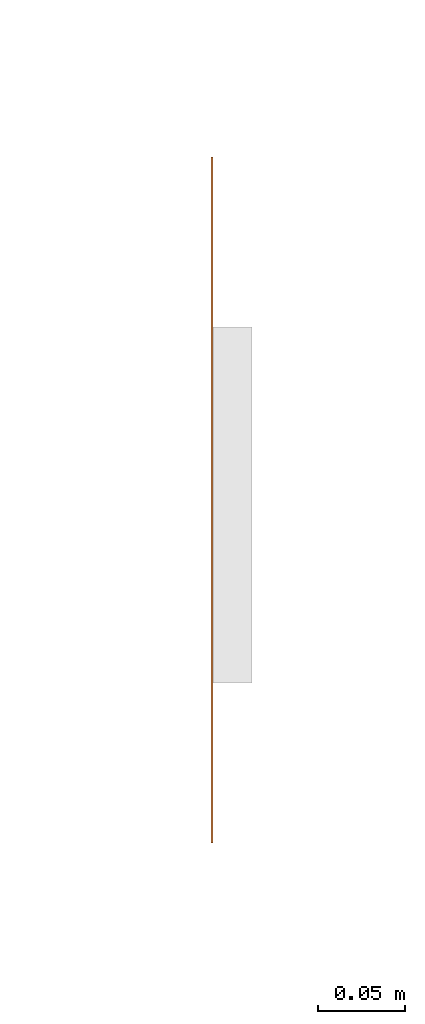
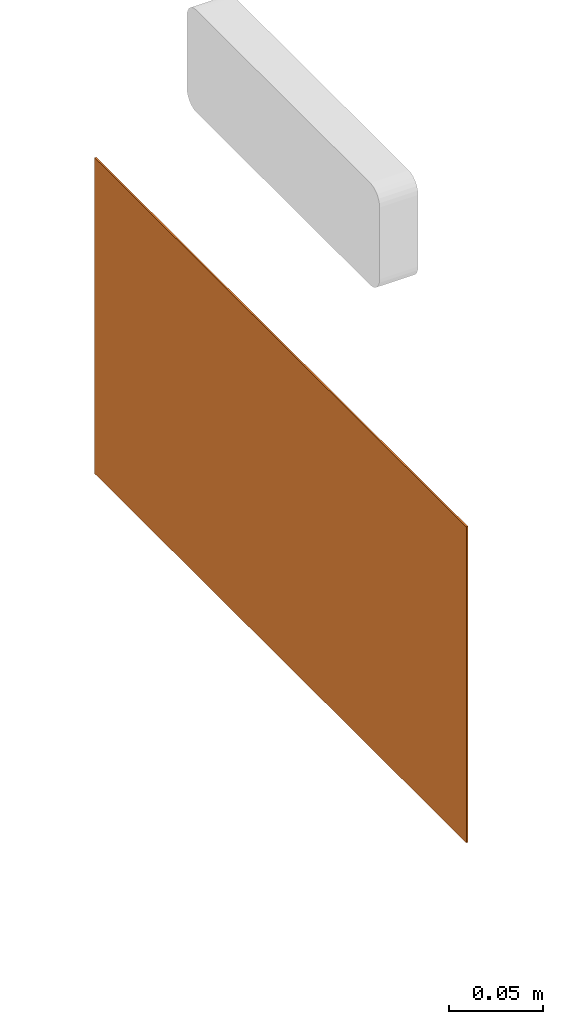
# One storey, part 55 of 119: 1 proxy.
"""IFC2X3 building model written with IfcOpenShell, lengths in metres."""

from ifc_helpers import new_model, entity, si_unit, converted_unit, derived_unit, direction, frame, frame_2d, origin, origin_2d_with_axis, place, context, subcontext, project, spatial, polyline, circle_curve, parameter, trimmed, segment, composite_curve, rectangle, outline, extrude, source, transform, mapped, material, material_list, type_object, type_shapes, element, save


model = new_model("IFC2X3")

# Units and contexts
model_context = context("Model", 3, precision=1e-05, world=origin(), true_north=direction((6.12303176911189e-17, 1.0)))
body_context = subcontext(model_context, "Body", "Model", "MODEL_VIEW")
ifc_project = project(units=[si_unit("LENGTHUNIT", "METRE"), si_unit("AREAUNIT", "SQUARE_METRE"), si_unit("VOLUMEUNIT", "CUBIC_METRE"), converted_unit("PLANEANGLEUNIT", "DEGREE", entity("IfcRatioMeasure", 0.0174532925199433), si_unit("PLANEANGLEUNIT", "RADIAN"), dimensions=[0, 0, 0, 0, 0, 0, 0]), si_unit("MASSUNIT", "GRAM", prefix="KILO"), derived_unit("MASSDENSITYUNIT", [(si_unit("MASSUNIT", "GRAM", prefix="KILO"), 1), (si_unit("LENGTHUNIT", "METRE"), -3)]), derived_unit("MOMENTOFINERTIAUNIT", [(si_unit("LENGTHUNIT", "METRE"), 4)]), si_unit("TIMEUNIT", "SECOND"), si_unit("FREQUENCYUNIT", "HERTZ"), si_unit("THERMODYNAMICTEMPERATUREUNIT", "DEGREE_CELSIUS"), derived_unit("THERMALTRANSMITTANCEUNIT", [(si_unit("MASSUNIT", "GRAM", prefix="KILO"), 1), (si_unit("THERMODYNAMICTEMPERATUREUNIT", "KELVIN"), -1), (si_unit("TIMEUNIT", "SECOND"), -3)]), derived_unit("VOLUMETRICFLOWRATEUNIT", [(si_unit("LENGTHUNIT", "METRE"), 3), (si_unit("TIMEUNIT", "SECOND"), -1)]), si_unit("ELECTRICCURRENTUNIT", "AMPERE"), si_unit("ELECTRICVOLTAGEUNIT", "VOLT"), si_unit("POWERUNIT", "WATT"), si_unit("FORCEUNIT", "NEWTON", prefix="KILO"), si_unit("ILLUMINANCEUNIT", "LUX"), si_unit("LUMINOUSFLUXUNIT", "LUMEN"), si_unit("LUMINOUSINTENSITYUNIT", "CANDELA"), derived_unit("USERDEFINED", [(si_unit("MASSUNIT", "GRAM", prefix="KILO"), -1), (si_unit("LENGTHUNIT", "METRE"), -2), (si_unit("TIMEUNIT", "SECOND"), 3), (si_unit("LUMINOUSFLUXUNIT", "LUMEN"), 1)]), derived_unit("LINEARVELOCITYUNIT", [(si_unit("LENGTHUNIT", "METRE"), 1), (si_unit("TIMEUNIT", "SECOND"), -1)]), si_unit("PRESSUREUNIT", "PASCAL"), derived_unit("USERDEFINED", [(si_unit("LENGTHUNIT", "METRE"), -2), (si_unit("MASSUNIT", "GRAM", prefix="KILO"), 1), (si_unit("TIMEUNIT", "SECOND"), -2)]), derived_unit("LINEARFORCEUNIT", [(si_unit("MASSUNIT", "GRAM", prefix="KILO"), 1), (si_unit("LENGTHUNIT", "METRE"), 1), (si_unit("TIMEUNIT", "SECOND"), -2), (si_unit("LENGTHUNIT", "METRE"), -1)]), derived_unit("PLANARFORCEUNIT", [(si_unit("MASSUNIT", "GRAM", prefix="KILO"), 1), (si_unit("LENGTHUNIT", "METRE"), 1), (si_unit("TIMEUNIT", "SECOND"), -2), (si_unit("LENGTHUNIT", "METRE"), -2)])], contexts=[model_context])

# Site, building, storey
site_placement = place(None, origin())
site = spatial("IfcSite", under=ifc_project, at=site_placement, Name="Default", CompositionType="ELEMENT")
building_placement = place(site_placement, origin())
building = spatial("IfcBuilding", under=site, at=building_placement, CompositionType="ELEMENT")
storey_placement = place(building_placement, origin())
storey = spatial("IfcBuildingStorey", under=building, at=storey_placement, Name="PAV. 01 - TÉRREO", CompositionType="ELEMENT", Elevation=0.0)

# Proxy
ifc_material_1 = material(Name="Plastico branco")
ifc_material_2 = material(Name="Plastico Verde")
ifc_material_list = material_list([ifc_material_1, ifc_material_2])
building_element_proxy_type = type_object("IfcBuildingElementProxyType", Name="Sinalização de orientação - S03 - Indicação de uma saída de emergência a ser afixada acima da porta:Distância 12m", PredefinedType="NOTDEFINED", material=ifc_material_1)
shared_shape = source(origin(), body_context, "Body", "SweptSolid", [
    extrude(outline(polyline([(0.0124622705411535, 0.0340163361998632), (0.0116069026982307, 0.0335634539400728), (0.0110082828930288, 0.0323153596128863), (0.0106205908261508, 0.0304379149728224), (0.0103980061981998, 0.0280969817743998), (0.0102947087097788, 0.0254584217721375), (0.0102359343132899, 0.01484080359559), (0.0100952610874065, 0.0101688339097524), (0.00995272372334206, 0.00797089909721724), (0.00974625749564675, 0.00585117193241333), (0.00946401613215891, 0.00379928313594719), (0.00909414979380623, 0.00180485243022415), (0.00861827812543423, -0.000162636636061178), (0.00799797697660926, -0.00219550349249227), (0.0071909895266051, -0.00439788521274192), (0.00615505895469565, -0.00687391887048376), (0.00484792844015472, -0.00972774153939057), (0.00322734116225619, -0.0130634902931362), (-0.00393772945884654, -0.0270036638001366), (0.00911414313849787, -0.0269659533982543), (0.00975353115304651, -0.0269418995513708), (0.0101589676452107, -0.0269097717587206), (0.0104072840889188, -0.0268684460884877), (0.0105753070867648, -0.0268167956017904), (0.0107283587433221, -0.026746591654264), (0.0108956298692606, -0.0266273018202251), (0.0110992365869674, -0.0264240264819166), (0.0113612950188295, -0.0261018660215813), (0.0117039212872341, -0.0256259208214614), (0.0121492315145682, -0.0249612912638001), (0.0134363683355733, -0.0229263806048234), (0.0220622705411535, -0.00866366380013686), (0.0231418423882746, -0.00739752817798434), (0.024244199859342, -0.00641124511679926), (0.0253551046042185, -0.00568750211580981), (0.026460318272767, -0.00520898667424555), (0.0275456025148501, -0.00495838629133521), (0.0285967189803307, -0.00491838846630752), (0.0295994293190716, -0.00507168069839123), (0.0305394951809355, -0.00540095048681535), (0.0314026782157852, -0.00588888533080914), (0.0321747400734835, -0.00651817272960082), (0.0328414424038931, -0.00727150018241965), (0.033388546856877, -0.00813155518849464), (0.0338018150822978, -0.00908102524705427), (0.0340670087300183, -0.0101025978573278), (0.0341698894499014, -0.011178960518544), (0.0340962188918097, -0.0122928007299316), (0.0338317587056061, -0.0134268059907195), (0.0333622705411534, -0.0145636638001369), (0.027258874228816, -0.025073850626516), (0.0231922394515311, -0.0317577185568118), (0.020455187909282, -0.0355759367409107), (0.0183405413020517, -0.0374891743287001), (0.0161486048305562, -0.0384492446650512), (0.0134863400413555, -0.0390450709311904), (0.0103684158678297, -0.0393831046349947), (0.00683771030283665, -0.0395364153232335), (-0.0223273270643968, -0.0395794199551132), (-0.0254276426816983, -0.0395207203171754), (-0.0281392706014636, -0.0392326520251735), (-0.0306250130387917, -0.0385308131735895), (-0.0330476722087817, -0.0372308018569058), (-0.0355700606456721, -0.0351482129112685), (-0.0383972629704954, -0.0320852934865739), (-0.0418729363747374, -0.027800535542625), (-0.0522577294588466, -0.0145636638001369), (-0.0701177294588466, -0.0145636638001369), (-0.0701177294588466, -0.0855036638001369), (0.0426422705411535, -0.0855036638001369), (0.0426422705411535, 0.0290963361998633), (0.0481022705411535, 0.0290963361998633), (0.0680622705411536, 0.0537563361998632), (0.0426422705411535, 0.0537563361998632), (0.0426422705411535, 0.0764363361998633), (0.0551222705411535, 0.0891363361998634), (-0.0240977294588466, 0.0891363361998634), (-0.0371577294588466, 0.0764363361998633), (-0.0542977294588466, 0.0764363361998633), (-0.039344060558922, 0.0891363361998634), (-0.0579777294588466, 0.0891363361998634), (-0.0701177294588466, 0.0764363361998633), (-0.0701177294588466, -0.0018236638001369), (-0.050092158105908, -0.00182052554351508), (-0.048376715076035, -0.00187323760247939), (-0.0469973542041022, -0.00203451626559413), (-0.0458400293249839, -0.00235707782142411), (-0.0447906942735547, -0.00289363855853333), (-0.0437353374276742, -0.00369689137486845), (-0.0425823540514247, -0.00480435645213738), (-0.0413011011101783, -0.00621227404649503), (-0.0398712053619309, -0.00790993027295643), (-0.0322577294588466, -0.0173836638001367), (-0.0217377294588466, 0.00417633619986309), (-0.0542977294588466, 0.0709363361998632), (-0.0371577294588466, 0.0709363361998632), (-0.00639772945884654, 0.0127763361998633), (-0.00393772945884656, 0.0340163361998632), (-0.00373167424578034, 0.0366224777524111), (-0.00346846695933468, 0.0389264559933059), (-0.00310194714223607, 0.040942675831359), (-0.00258595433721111, 0.0426855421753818), (-0.0018743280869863, 0.0441694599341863), (-0.000920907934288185, 0.0454088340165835), (0.000320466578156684, 0.0464180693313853), (0.00189595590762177, 0.0472115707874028), (0.00385172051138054, 0.0478037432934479), (0.00623392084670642, 0.0482089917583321), (0.00908871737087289, 0.0484417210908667), (0.0124622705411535, 0.0485163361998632), (0.0551222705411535, 0.0485163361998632), (0.0426422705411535, 0.0340163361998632), (0.0124622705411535, 0.0340163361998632)]), holes=[composite_curve([segment(trimmed(circle_curve(frame_2d((-0.0288977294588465, -0.0559436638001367), x_axis=(-1.0, 0.0)), 0.0134), [parameter(180.0)], [parameter(360.0)], True, "PARAMETER"), False, "CONTINUOUS"), segment(trimmed(circle_curve(frame_2d((-0.0288977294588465, -0.0559436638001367), x_axis=(-1.0, 0.0)), 0.0134), [parameter(2.03555499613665e-13)], [parameter(180.0)], True, "PARAMETER"), False, "CONTINUOUS")], self_intersect=False)]), frame((-0.112057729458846, -0.00109999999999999, 2.30431633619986), z_axis=(0.0, -1.0, 0.0), x_axis=(-1.0, 0.0, 0.0)), (0.0, 0.0, -1.0), 0.0011),
    extrude(outline(polyline([(-0.064695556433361, -0.0646955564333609), (0.0167631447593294, -0.0646955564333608), (0.0526700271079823, -0.0287886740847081), (-0.001720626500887, -0.028788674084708), (0.0731619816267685, 0.0460939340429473), (0.0460939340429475, 0.0731619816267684), (-0.028788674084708, -0.00172062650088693), (-0.0287886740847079, 0.0526700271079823), (-0.0646955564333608, 0.0167631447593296), (-0.064695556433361, -0.0646955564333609)])), frame((0.0738000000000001, -0.0011, 2.29950666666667), z_axis=(0.0, 1.0, 0.0), x_axis=(0.707106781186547, 0.0, -0.707106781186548)), (0.0, 0.0, 1.0), 0.0011),
    extrude(rectangle(XDim=0.001, YDim=0.38, at=origin_2d_with_axis()), frame((0.0, -0.0005, 2.2075), z_axis=(0.0, 0.0, 1.0), x_axis=(0.0, 1.0, 0.0)), (0.0, 0.0, 1.0), 0.189999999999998),
    extrude(outline(polyline([(-0.1025, -0.1975), (0.102500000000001, -0.1975), (0.102500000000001, 0.1975), (-0.1025, 0.1975), (-0.1025, -0.1975)]), holes=[polyline([(-0.0949999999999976, -0.190000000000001), (-0.0949999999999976, 0.189999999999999), (0.0950000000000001, 0.189999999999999), (0.0950000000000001, -0.190000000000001), (-0.0949999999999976, -0.190000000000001)])]), frame((0.0, -0.001, 2.3025), z_axis=(0.0, 1.0, 0.0), x_axis=(0.0, 0.0, -1.0)), (0.0, 0.0, 1.0), 0.001),
])
type_shapes(building_element_proxy_type, [shared_shape])
proxy_placement = place(storey_placement, frame((46.7240605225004, 7.43338193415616, 0.0), z_axis=(0.0, 0.0, 1.0), x_axis=(0.0, 1.0, 0.0)))
element("IfcBuildingElementProxy", 1, at=proxy_placement, inside=storey, type_object=building_element_proxy_type, material=ifc_material_list, Name="Sinalização de orientação - S03 - Indicação de uma saída de emergência a ser afixada acima da porta:Distância 12m", ObjectType="Sinalização de orientação - S03 - Indicação de uma saída de emergência a ser afixada acima da porta:Distância 12m", context=body_context, shape_type="MappedRepresentation", body=[
    mapped(shared_shape, transform((0.0, 0.0, 0.0), scale=1.0)),
])

save(model, "model.ifc")
